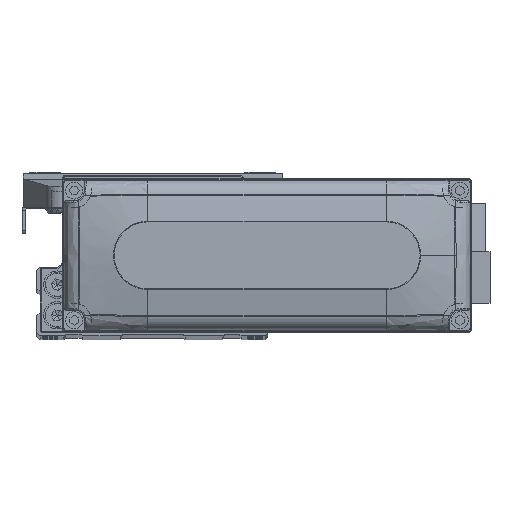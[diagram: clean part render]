
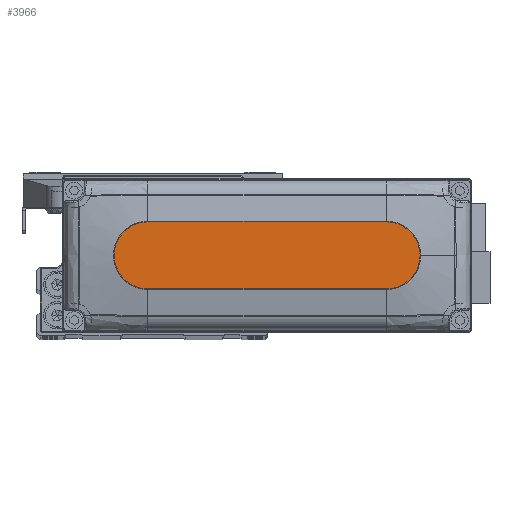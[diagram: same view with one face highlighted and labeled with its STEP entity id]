
A CAD part, top view. The second image highlights one B-rep face of the part: STEP entity #3966.
In plain terms, the highlighted planar face has unit normal (0, 0, 1).
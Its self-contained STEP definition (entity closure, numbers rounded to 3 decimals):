
#788 = CIRCLE ( 'NONE', #26332, 10. ) ;
#1451 = LINE ( 'NONE', #15363, #22450 ) ;
#1916 = EDGE_CURVE ( 'NONE', #32709, #12434, #788, .T. ) ;
#2065 = DIRECTION ( 'NONE',  ( 0., 0., 1. ) ) ;
#2099 = LINE ( 'NONE', #16005, #22989 ) ;
#3876 = AXIS2_PLACEMENT_3D ( 'NONE', #8849, #22766, #36697 ) ;
#3966 = ADVANCED_FACE ( 'NONE', ( #26195 ), #40109, .T. ) ;
#4861 = VERTEX_POINT ( 'NONE', #8723 ) ;
#5317 = CARTESIAN_POINT ( 'NONE',  ( 35., 10., 28. ) ) ;
#6125 = EDGE_CURVE ( 'NONE', #12434, #7938, #2099, .T. ) ;
#6327 = ORIENTED_EDGE ( 'NONE', *, *, #25690, .T. ) ;
#6483 = EDGE_CURVE ( 'NONE', #7938, #4861, #27394, .T. ) ;
#7699 = AXIS2_PLACEMENT_3D ( 'NONE', #43134, #11873, #25808 ) ;
#7938 = VERTEX_POINT ( 'NONE', #27220 ) ;
#8723 = CARTESIAN_POINT ( 'NONE',  ( 45., 0., 28. ) ) ;
#8849 = CARTESIAN_POINT ( 'NONE',  ( 0., 0., 28. ) ) ;
#10406 = ORIENTED_EDGE ( 'NONE', *, *, #6125, .T. ) ;
#11263 = CARTESIAN_POINT ( 'NONE',  ( -35., -10., 28. ) ) ;
#11873 = DIRECTION ( 'NONE',  ( 0., 0., 1. ) ) ;
#12434 = VERTEX_POINT ( 'NONE', #11263 ) ;
#14180 = ORIENTED_EDGE ( 'NONE', *, *, #1916, .T. ) ;
#15363 = CARTESIAN_POINT ( 'NONE',  ( -35., 10., 28. ) ) ;
#15764 = CARTESIAN_POINT ( 'NONE',  ( -35., 0., 28. ) ) ;
#15967 = DIRECTION ( 'NONE',  ( 1., 0., 0. ) ) ;
#16005 = CARTESIAN_POINT ( 'NONE',  ( -35., -10., 28. ) ) ;
#19269 = VERTEX_POINT ( 'NONE', #5317 ) ;
#22450 = VECTOR ( 'NONE', #29314, 1000. ) ;
#22766 = DIRECTION ( 'NONE',  ( 0., 0., 1. ) ) ;
#22989 = VECTOR ( 'NONE', #29973, 1000. ) ;
#25690 = EDGE_CURVE ( 'NONE', #4861, #19269, #35787, .T. ) ;
#25808 = DIRECTION ( 'NONE',  ( 1., 0., 0. ) ) ;
#26195 = FACE_OUTER_BOUND ( 'NONE', #34846, .T. ) ;
#26332 = AXIS2_PLACEMENT_3D ( 'NONE', #15764, #29719, #43614 ) ;
#26988 = EDGE_CURVE ( 'NONE', #19269, #32709, #1451, .T. ) ;
#27220 = CARTESIAN_POINT ( 'NONE',  ( 35., -10., 28. ) ) ;
#27394 = CIRCLE ( 'NONE', #7699, 10. ) ;
#29314 = DIRECTION ( 'NONE',  ( -1., 0., 0. ) ) ;
#29719 = DIRECTION ( 'NONE',  ( 0., 0., 1. ) ) ;
#29973 = DIRECTION ( 'NONE',  ( 1., 0., 0. ) ) ;
#31970 = ORIENTED_EDGE ( 'NONE', *, *, #6483, .T. ) ;
#32709 = VERTEX_POINT ( 'NONE', #42766 ) ;
#33342 = CARTESIAN_POINT ( 'NONE',  ( 35., 0., 28. ) ) ;
#33692 = ORIENTED_EDGE ( 'NONE', *, *, #26988, .T. ) ;
#34846 = EDGE_LOOP ( 'NONE', ( #33692, #14180, #10406, #31970, #6327 ) ) ;
#35787 = CIRCLE ( 'NONE', #42042, 10. ) ;
#36697 = DIRECTION ( 'NONE',  ( 1., 0., 0. ) ) ;
#40109 = PLANE ( 'NONE',  #3876 ) ;
#42042 = AXIS2_PLACEMENT_3D ( 'NONE', #33342, #2065, #15967 ) ;
#42766 = CARTESIAN_POINT ( 'NONE',  ( -35., 10., 28. ) ) ;
#43134 = CARTESIAN_POINT ( 'NONE',  ( 35., 0., 28. ) ) ;
#43614 = DIRECTION ( 'NONE',  ( 1., 0., 0. ) ) ;
